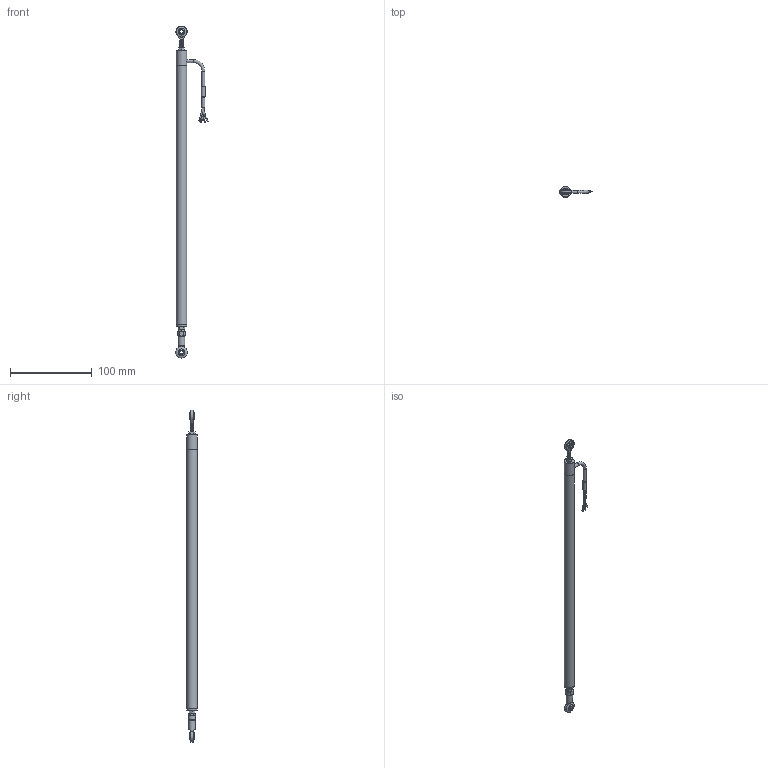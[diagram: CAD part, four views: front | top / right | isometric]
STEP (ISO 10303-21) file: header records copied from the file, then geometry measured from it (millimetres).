
FILE_DESCRIPTION(/* description */ (''),/* implementation_level */ '2;1');
FILE_NAME(/* name */ 'LPPS-12-275-R Assembly (wrapped).step',/* time_stamp */ '2023-10-10T14:08:21-04:00',/* author */ ('TSC_Grant'),/* organization */ (''),/* preprocessor_version */ 'ST-DEVELOPER v19.2',/* originating_system */ 'Autodesk Inventor 2024',/* authorisation */ '');
FILE_SCHEMA (('AUTOMOTIVE_DESIGN { 1 0 10303 214 3 1 1 }'));
Length unit declared in the file: inch
Products named in the file (4): LPPS-12-010-R Assembly (wrapped); LPPS-12-010-R Body (wrapped); LPPS-12-010-R Spoiler (wrapped); Wire
Assembly tree (3 placements, depth 2):
  LPPS-12-010-R Assembly (wrapped)
    LPPS-12-010-R Body (wrapped)
    LPPS-12-010-R Spoiler (wrapped)
    Wire
Bounding box: 39.48 x 12.7 x 405.7 mm (x, y, z)
Volume: 45626 mm3; surface area: 25213.3 mm2
Topology: 13 solids, 13 shells, 200 faces, 462 edges, 306 vertices
Faces by surface type: plane 94, cylinder 74, bspline 21, torus 7, sphere 4
Full cylindrical faces by diameter (mm): 1.016 x3, 1.27 x1, 1.524 x3, 1.651 x2, 3.632 x5, 3.937 x14, 4.14 x2, 4.191 x1, 4.445 x1, 6.604 x1, 8.001 x1, 12.7 x3
Entity records: 9552 total; most frequent: CARTESIAN_POINT 4683, ORIENTED_EDGE 924, DIRECTION 895, EDGE_CURVE 462, AXIS2_PLACEMENT_3D 345, VERTEX_POINT 306, EDGE_LOOP 228, LINE 205
